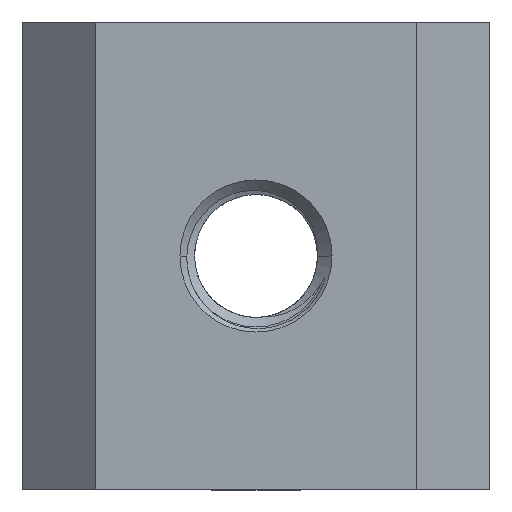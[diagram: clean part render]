
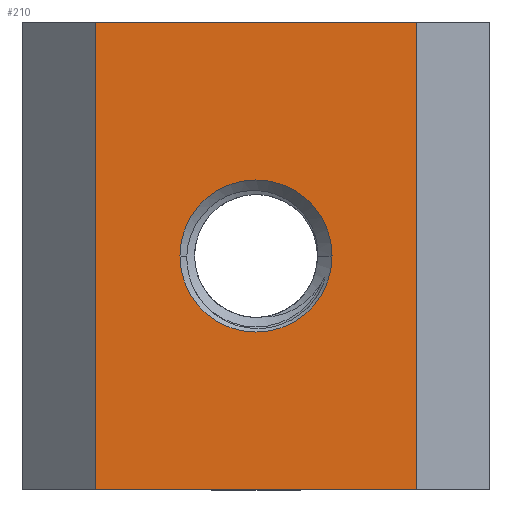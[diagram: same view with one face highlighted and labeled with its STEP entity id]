
A CAD part, front view. The second image highlights one B-rep face of the part: STEP entity #210.
In plain terms, the highlighted planar face has unit normal (0, -1, 0).
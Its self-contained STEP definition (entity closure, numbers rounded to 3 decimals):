
#110 = EDGE_CURVE ( 'NONE', #4906, #2568, #635, .T. ) ;
#173 = DIRECTION ( 'NONE',  ( 0., 0., -1. ) ) ;
#210 = ADVANCED_FACE ( 'NONE', ( #1246, #3562 ), #477, .F. ) ;
#226 = LINE ( 'NONE', #4507, #4487 ) ;
#228 = EDGE_LOOP ( 'NONE', ( #1621, #3711, #2096, #4853 ) ) ;
#477 = PLANE ( 'NONE',  #1799 ) ;
#498 = VERTEX_POINT ( 'NONE', #3527 ) ;
#551 = CARTESIAN_POINT ( 'NONE',  ( 5.5, 0., 8. ) ) ;
#635 = LINE ( 'NONE', #2192, #2282 ) ;
#809 = EDGE_LOOP ( 'NONE', ( #1930, #1265 ) ) ;
#1083 = CIRCLE ( 'NONE', #1242, 2.6 ) ;
#1237 = CIRCLE ( 'NONE', #4736, 2.6 ) ;
#1242 = AXIS2_PLACEMENT_3D ( 'NONE', #3281, #2085, #3751 ) ;
#1246 = FACE_BOUND ( 'NONE', #809, .T. ) ;
#1265 = ORIENTED_EDGE ( 'NONE', *, *, #4644, .T. ) ;
#1312 = CARTESIAN_POINT ( 'NONE',  ( -5.5, 0., 8. ) ) ;
#1621 = ORIENTED_EDGE ( 'NONE', *, *, #2753, .T. ) ;
#1799 = AXIS2_PLACEMENT_3D ( 'NONE', #2816, #2839, #4379 ) ;
#1849 = EDGE_CURVE ( 'NONE', #498, #3198, #1237, .T. ) ;
#1906 = VERTEX_POINT ( 'NONE', #2121 ) ;
#1930 = ORIENTED_EDGE ( 'NONE', *, *, #1849, .T. ) ;
#2085 = DIRECTION ( 'NONE',  ( 0., 1., 0. ) ) ;
#2096 = ORIENTED_EDGE ( 'NONE', *, *, #110, .F. ) ;
#2121 = CARTESIAN_POINT ( 'NONE',  ( -5.5, 0., -8. ) ) ;
#2192 = CARTESIAN_POINT ( 'NONE',  ( -5.5, 0., 8. ) ) ;
#2207 = CARTESIAN_POINT ( 'NONE',  ( 5.5, 0., -8. ) ) ;
#2282 = VECTOR ( 'NONE', #4867, 1000. ) ;
#2568 = VERTEX_POINT ( 'NONE', #551 ) ;
#2753 = EDGE_CURVE ( 'NONE', #1906, #3059, #3005, .T. ) ;
#2771 = DIRECTION ( 'NONE',  ( 0., 1., 0. ) ) ;
#2780 = VECTOR ( 'NONE', #3030, 1000. ) ;
#2816 = CARTESIAN_POINT ( 'NONE',  ( -5.5, 0., 8. ) ) ;
#2839 = DIRECTION ( 'NONE',  ( 0., 1., 0. ) ) ;
#2873 = CARTESIAN_POINT ( 'NONE',  ( -5.5, 0., 8. ) ) ;
#2885 = DIRECTION ( 'NONE',  ( 0., 0., -1. ) ) ;
#2971 = CARTESIAN_POINT ( 'NONE',  ( -2.6, 0., 0. ) ) ;
#3005 = LINE ( 'NONE', #3053, #2780 ) ;
#3030 = DIRECTION ( 'NONE',  ( 1., 0., 0. ) ) ;
#3053 = CARTESIAN_POINT ( 'NONE',  ( -5.5, 0., -8. ) ) ;
#3059 = VERTEX_POINT ( 'NONE', #2207 ) ;
#3154 = CARTESIAN_POINT ( 'NONE',  ( 0., 0., 0. ) ) ;
#3198 = VERTEX_POINT ( 'NONE', #2971 ) ;
#3281 = CARTESIAN_POINT ( 'NONE',  ( 0., 0., 0. ) ) ;
#3527 = CARTESIAN_POINT ( 'NONE',  ( 2.6, 0., 0. ) ) ;
#3562 = FACE_OUTER_BOUND ( 'NONE', #228, .T. ) ;
#3686 = LINE ( 'NONE', #1312, #3857 ) ;
#3711 = ORIENTED_EDGE ( 'NONE', *, *, #4721, .F. ) ;
#3751 = DIRECTION ( 'NONE',  ( 0., 0., 1. ) ) ;
#3857 = VECTOR ( 'NONE', #2885, 1000. ) ;
#3957 = DIRECTION ( 'NONE',  ( 0., 0., 1. ) ) ;
#4067 = EDGE_CURVE ( 'NONE', #4906, #1906, #3686, .T. ) ;
#4379 = DIRECTION ( 'NONE',  ( 0., 0., 1. ) ) ;
#4487 = VECTOR ( 'NONE', #173, 1000. ) ;
#4507 = CARTESIAN_POINT ( 'NONE',  ( 5.5, 0., 8. ) ) ;
#4644 = EDGE_CURVE ( 'NONE', #3198, #498, #1083, .T. ) ;
#4721 = EDGE_CURVE ( 'NONE', #2568, #3059, #226, .T. ) ;
#4736 = AXIS2_PLACEMENT_3D ( 'NONE', #3154, #2771, #3957 ) ;
#4853 = ORIENTED_EDGE ( 'NONE', *, *, #4067, .T. ) ;
#4867 = DIRECTION ( 'NONE',  ( 1., 0., 0. ) ) ;
#4906 = VERTEX_POINT ( 'NONE', #2873 ) ;
